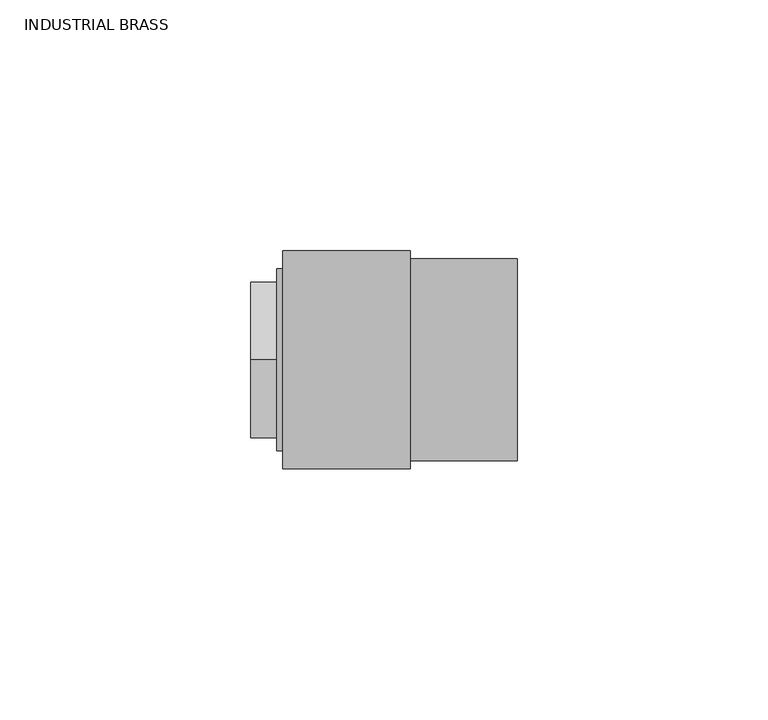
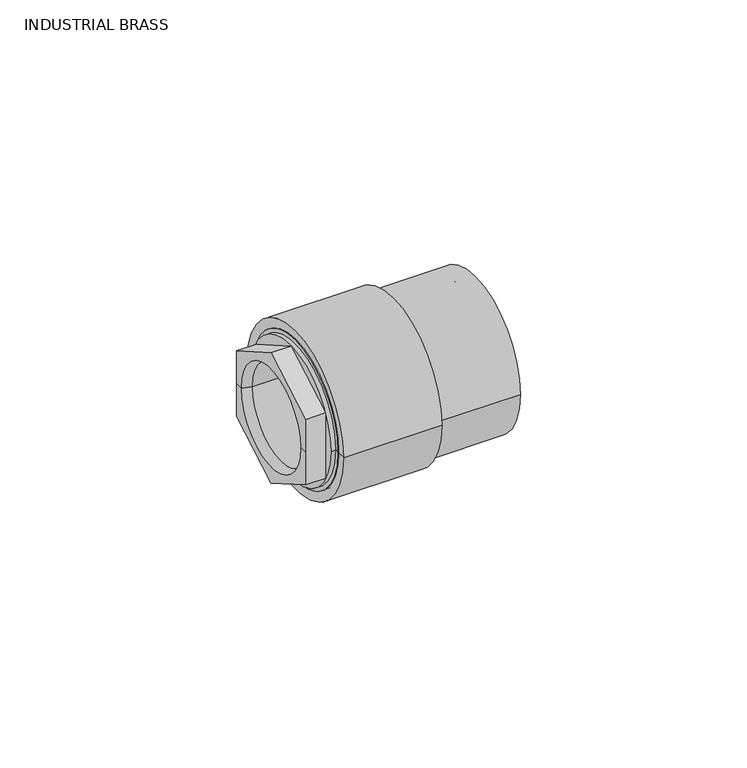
"""IFC4 building model written with IfcOpenShell, lengths in millimetres: valve geometry, Aquatherm - Transition Piece - F HEX : INDUSTRIAL BRASS."""

from ifc_helpers import new_model, si_unit, frame, origin, place, context, project, spatial, polyline, circle_curve, source, transform, mapped, element, save
from ifc_brep_helpers import plane_surface, cylinder_surface, revolved_surface, advanced_brep


def industrial_brass_bef8cd2b(model_context):
    return source(origin(), model_context, "Body", "AdvancedBrep", [
        advanced_brep(
        [(7.14375, -12.7, 0.0), (7.14375, 12.7, 0.0), (-3.7703125, 12.7, 0.0), (-3.7703125, -12.7, 0.0), (7.14375, -13.49375, 0.0), (7.14375, 13.49375, 0.0), (10.31875, -13.49375, 0.0), (10.31875, 13.49375, 0.0), (10.31875, -9.525, 0.0), (10.31875, 9.525, 0.0), (13.49375, -9.525, 0.0), (13.49375, 9.525, 0.0), (13.49375, -19.177, 0.0), (13.49375, 19.177, 0.0), (0.0, -19.177, 0.0), (0.0, 19.177, 0.0), (-6.35, -13.49375, 0.0), (-6.35, 13.49375, 0.0), (-6.35, 15.494, 0.0), (-6.35, 15.494, -8.9454651), (-6.35, 0.0, -17.8909301), (-6.35, -15.494, -8.9454651), (-6.35, -15.494, 0.0), (-6.35, -15.494, 8.9454651), (-6.35, 0.0, 17.8909301), (-6.35, 15.494, 8.9454651), (0.0, -18.161, 0.0), (0.0, 18.161, 0.0), (-1.190625, -18.161, 0.0), (-1.190625, 18.161, 0.0), (-1.190625, 0.0, -17.8909301), (-1.190625, 15.494, -8.9454651), (-1.190625, 15.494, 8.9454651), (-1.190625, 0.0, 17.8909301), (-1.190625, -15.494, 8.9454651), (-1.190625, -15.494, -8.9454651)],
        [
            (0, 1, circle_curve(frame((7.14375, 0.0, 0.0), z_axis=(1.0, 0.0, 0.0), x_axis=(0.0, 1.0, 0.0)), 12.7)),
            (1, 2),
            (2, 3, circle_curve(frame((-3.7703125, 0.0, 0.0), z_axis=(-1.0, 0.0, 0.0), x_axis=(0.0, 1.0, 0.0)), 12.7)),
            (3, 0),
            (1, 0, circle_curve(frame((7.14375, 0.0, 0.0), z_axis=(1.0, 0.0, 0.0), x_axis=(0.0, 1.0, 0.0)), 12.7)),
            (3, 2, circle_curve(frame((-3.7703125, 0.0, 0.0), z_axis=(-1.0, 0.0, 0.0), x_axis=(0.0, 1.0, 0.0)), 12.7)),
            (0, 4),
            (4, 5, circle_curve(frame((7.14375, 0.0, 0.0), z_axis=(1.0, 0.0, 0.0), x_axis=(0.0, 1.0, 0.0)), 13.49375)),
            (5, 1),
            (5, 4, circle_curve(frame((7.14375, 0.0, 0.0), z_axis=(1.0, 0.0, 0.0), x_axis=(0.0, 1.0, 0.0)), 13.49375)),
            (4, 6),
            (6, 7, circle_curve(frame((10.31875, 0.0, 0.0), z_axis=(1.0, 0.0, 0.0), x_axis=(0.0, 1.0, 0.0)), 13.49375)),
            (7, 5),
            (7, 6, circle_curve(frame((10.31875, 0.0, 0.0), z_axis=(1.0, 0.0, 0.0), x_axis=(0.0, 1.0, 0.0)), 13.49375)),
            (6, 8),
            (8, 9, circle_curve(frame((10.31875, 0.0, 0.0), z_axis=(1.0, 0.0, 0.0), x_axis=(0.0, 1.0, 0.0)), 9.525)),
            (9, 7),
            (9, 8, circle_curve(frame((10.31875, 0.0, 0.0), z_axis=(1.0, 0.0, 0.0), x_axis=(0.0, 1.0, 0.0)), 9.525)),
            (8, 10),
            (10, 11, circle_curve(frame((13.49375, 0.0, 0.0), z_axis=(1.0, 0.0, 0.0), x_axis=(0.0, 1.0, 0.0)), 9.525)),
            (11, 9),
            (11, 10, circle_curve(frame((13.49375, 0.0, 0.0), z_axis=(1.0, 0.0, 0.0), x_axis=(0.0, 1.0, 0.0)), 9.525)),
            (10, 12),
            (12, 13, circle_curve(frame((13.49375, 0.0, 0.0), z_axis=(1.0, 0.0, 0.0), x_axis=(0.0, 1.0, 0.0)), 19.177)),
            (13, 11),
            (13, 12, circle_curve(frame((13.49375, 0.0, 0.0), z_axis=(1.0, 0.0, 0.0), x_axis=(0.0, 1.0, 0.0)), 19.177)),
            (12, 14),
            (14, 15, circle_curve(frame((0.0, 0.0, 0.0), z_axis=(1.0, 0.0, 0.0), x_axis=(0.0, 1.0, 0.0)), 19.177)),
            (15, 13),
            (15, 14, circle_curve(frame((0.0, 0.0, 0.0), z_axis=(1.0, 0.0, 0.0), x_axis=(0.0, 1.0, 0.0)), 19.177)),
            (16, 17, circle_curve(frame((-6.35, 0.0, 0.0), z_axis=(1.0, 0.0, 0.0), x_axis=(0.0, 1.0, 0.0)), 13.49375)),
            (17, 18),
            (18, 19),
            (19, 20),
            (20, 21),
            (21, 22),
            (22, 16),
            (17, 16, circle_curve(frame((-6.35, 0.0, 0.0), z_axis=(1.0, 0.0, 0.0), x_axis=(0.0, 1.0, 0.0)), 13.49375)),
            (22, 23),
            (23, 24),
            (24, 25),
            (25, 18),
            (2, 17),
            (16, 3),
            (14, 26),
            (26, 27, circle_curve(frame((0.0, 0.0, 0.0), z_axis=(1.0, 0.0, 0.0), x_axis=(0.0, 1.0, 0.0)), 18.161)),
            (27, 15),
            (27, 26, circle_curve(frame((0.0, 0.0, 0.0), z_axis=(1.0, 0.0, 0.0), x_axis=(0.0, 1.0, 0.0)), 18.161)),
            (26, 28),
            (28, 29, circle_curve(frame((-1.190625, 0.0, 0.0), z_axis=(1.0, 0.0, 0.0), x_axis=(0.0, 1.0, 0.0)), 18.161)),
            (29, 27),
            (29, 28, circle_curve(frame((-1.190625, 0.0, 0.0), z_axis=(1.0, 0.0, 0.0), x_axis=(0.0, 1.0, 0.0)), 18.161)),
            (30, 31),
            (31, 32),
            (32, 33),
            (33, 34),
            (34, 35),
            (35, 30),
            (35, 21),
            (20, 30),
            (34, 23),
            (33, 24),
            (32, 25),
            (31, 19),
        ],
        [
            revolved_surface(polyline([(-3.7703125, 12.7, 0.0), (7.143749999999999, 12.7, 0.0)]), (-8.1832251, 0.0, 0.0), (-1.0, 0.0, 0.0)),
            plane_surface(frame((7.14375, 0.0, 0.0), z_axis=(1.0, 0.0, 0.0), x_axis=(0.0, 1.0, 0.0))),
            revolved_surface(polyline([(7.143749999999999, 13.49375, 0.0), (10.31875, 13.49375, 0.0)]), (-8.1832251, 0.0, 0.0), (-1.0, 0.0, 0.0)),
            plane_surface(frame((10.31875, 0.0, 0.0), z_axis=(-1.0, 0.0, 0.0), x_axis=(0.0, 1.0, 0.0))),
            revolved_surface(polyline([(10.31875, 9.525, 0.0), (13.49375, 9.525, 0.0)]), (-8.1832251, 0.0, 0.0), (-1.0, 0.0, 0.0)),
            plane_surface(frame((13.49375, 0.0, 0.0), z_axis=(1.0, 0.0, 0.0), x_axis=(0.0, 1.0, 0.0))),
            cylinder_surface(frame((-8.1832251, 0.0, 0.0), z_axis=(-1.0, 0.0, 0.0), x_axis=(0.0, 1.0, 0.0)), 19.177),
            plane_surface(frame((-6.35, 0.0, 0.0), z_axis=(-1.0, 0.0, 0.0), x_axis=(0.0, 1.0, 0.0))),
            revolved_surface(polyline([(-6.35, 13.49375, 0.0), (-3.7703125, 12.7, 0.0)]), (-8.1832251, 0.0, 0.0), (-1.0, 0.0, 0.0)),
            plane_surface(frame((0.0, 0.0, 0.0), z_axis=(-1.0, 0.0, 0.0), x_axis=(0.0, 1.0, 0.0))),
            cylinder_surface(frame((-8.1832251, 0.0, 0.0), z_axis=(-1.0, 0.0, 0.0), x_axis=(0.0, 1.0, 0.0)), 18.161),
            plane_surface(frame((-1.190625, -15.494, -8.9454651), z_axis=(-1.0000000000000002, 0.0, 0.0), x_axis=(0.0, -0.8660254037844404, 0.49999999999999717))),
            plane_surface(frame((-1.190625, 0.0, -17.8909301), z_axis=(0.0, -0.49999999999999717, -0.8660254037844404), x_axis=(-1.0, 0.0, 0.0))),
            plane_surface(frame((-1.190625, -15.494, -8.9454651), z_axis=(0.0, -1.0, 0.0), x_axis=(-1.0, 0.0, 0.0))),
            plane_surface(frame((-1.190625, -15.494, 8.9454651), z_axis=(0.0, -0.5000000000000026, 0.8660254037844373), x_axis=(-1.0, 0.0, 0.0))),
            plane_surface(frame((-1.190625, 0.0, 17.8909301), z_axis=(0.0, 0.4999999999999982, 0.8660254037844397), x_axis=(-1.0, 0.0, 0.0))),
            plane_surface(frame((-1.190625, 15.494, 8.9454651), z_axis=(0.0, 1.0, 0.0), x_axis=(-1.0, 0.0, 0.0))),
            plane_surface(frame((-1.190625, 15.494, -8.9454651), z_axis=(0.0, 0.5000000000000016, -0.8660254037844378), x_axis=(-1.0, 0.0, 0.0))),
        ],
        [
            (0, [[1, 2, 3, 4]]),
            (0, [[-2, 5, -4, 6]]),
            (1, [[-1, 7, 8, 9]]),
            (1, [[-5, -9, 10, -7]]),
            (2, [[-8, 11, 12, 13]]),
            (2, [[-10, -13, 14, -11]]),
            (3, [[-12, 15, 16, 17]]),
            (3, [[-14, -17, 18, -15]]),
            (4, [[-16, 19, 20, 21]]),
            (4, [[-18, -21, 22, -19]]),
            (5, [[-20, 23, 24, 25]]),
            (5, [[-22, -25, 26, -23]]),
            (6, [[-24, 27, 28, 29]]),
            (6, [[-26, -29, 30, -27]]),
            (7, [[31, 32, 33, 34, 35, 36, 37]]),
            (7, [[38, -37, 39, 40, 41, 42, -32]]),
            (8, [[-3, 43, -31, 44]]),
            (8, [[-6, -44, -38, -43]]),
            (9, [[-28, 45, 46, 47]]),
            (9, [[-30, -47, 48, -45]]),
            (10, [[-46, 49, 50, 51]]),
            (10, [[-48, -51, 52, -49]]),
            (11, [[-50, -52], [53, 54, 55, 56, 57, 58]]),
            (12, [[-58, 59, -35, 60]]),
            (13, [[-57, 61, -39, -36, -59]]),
            (14, [[-56, 62, -40, -61]]),
            (15, [[-55, 63, -41, -62]]),
            (16, [[-54, 64, -33, -42, -63]]),
            (17, [[-53, -60, -34, -64]]),
        ],
    ),
        advanced_brep(
        [(0.0, -21.717, 0.0), (0.0, 21.717, 0.0), (25.4, 21.717, 0.0), (25.4, -21.717, 0.0), (0.0, -19.177, 0.0), (0.0, 19.177, 0.0), (13.49375, -19.177, 0.0), (13.49375, 19.177, 0.0), (13.49375, -9.525, 0.0), (13.49375, 9.525, 0.0), (28.702, -9.525, 0.0), (28.702, 9.525, 0.0), (28.702, -16.002, 0.0), (28.702, 16.002, 0.0), (46.736, -16.002, 0.0), (46.736, 16.002, 0.0), (46.736, -20.1295, 0.0), (46.736, 20.1295, 0.0), (25.4, -20.1295, 0.0), (25.4, 20.1295, 0.0)],
        [
            (0, 1, circle_curve(frame((0.0, 0.0, 0.0), z_axis=(1.0, 0.0, 0.0), x_axis=(0.0, 1.0, 0.0)), 21.717)),
            (1, 2),
            (2, 3, circle_curve(frame((25.4, 0.0, 0.0), z_axis=(-1.0, 0.0, 0.0), x_axis=(0.0, 1.0, 0.0)), 21.717)),
            (3, 0),
            (1, 0, circle_curve(frame((0.0, 0.0, 0.0), z_axis=(1.0, 0.0, 0.0), x_axis=(0.0, 1.0, 0.0)), 21.717)),
            (3, 2, circle_curve(frame((25.4, 0.0, 0.0), z_axis=(-1.0, 0.0, 0.0), x_axis=(0.0, 1.0, 0.0)), 21.717)),
            (4, 5, circle_curve(frame((0.0, 0.0, 0.0), z_axis=(1.0, 0.0, 0.0), x_axis=(0.0, 1.0, 0.0)), 19.177)),
            (5, 1),
            (0, 4),
            (5, 4, circle_curve(frame((0.0, 0.0, 0.0), z_axis=(1.0, 0.0, 0.0), x_axis=(0.0, 1.0, 0.0)), 19.177)),
            (6, 7, circle_curve(frame((13.49375, 0.0, 0.0), z_axis=(1.0, 0.0, 0.0), x_axis=(0.0, 1.0, 0.0)), 19.177)),
            (7, 5),
            (4, 6),
            (7, 6, circle_curve(frame((13.49375, 0.0, 0.0), z_axis=(1.0, 0.0, 0.0), x_axis=(0.0, 1.0, 0.0)), 19.177)),
            (8, 9, circle_curve(frame((13.49375, 0.0, 0.0), z_axis=(1.0, 0.0, 0.0), x_axis=(0.0, 1.0, 0.0)), 9.525)),
            (9, 7),
            (6, 8),
            (9, 8, circle_curve(frame((13.49375, 0.0, 0.0), z_axis=(1.0, 0.0, 0.0), x_axis=(0.0, 1.0, 0.0)), 9.525)),
            (10, 11, circle_curve(frame((28.702, 0.0, 0.0), z_axis=(1.0, 0.0, 0.0), x_axis=(0.0, 1.0, 0.0)), 9.525)),
            (11, 9),
            (8, 10),
            (11, 10, circle_curve(frame((28.702, 0.0, 0.0), z_axis=(1.0, 0.0, 0.0), x_axis=(0.0, 1.0, 0.0)), 9.525)),
            (12, 13, circle_curve(frame((28.702, 0.0, 0.0), z_axis=(1.0, 0.0, 0.0), x_axis=(0.0, 1.0, 0.0)), 16.002)),
            (13, 11),
            (10, 12),
            (13, 12, circle_curve(frame((28.702, 0.0, 0.0), z_axis=(1.0, 0.0, 0.0), x_axis=(0.0, 1.0, 0.0)), 16.002)),
            (14, 15, circle_curve(frame((46.736, 0.0, 0.0), z_axis=(1.0, 0.0, 0.0), x_axis=(0.0, 1.0, 0.0)), 16.002)),
            (15, 13),
            (12, 14),
            (15, 14, circle_curve(frame((46.736, 0.0, 0.0), z_axis=(1.0, 0.0, 0.0), x_axis=(0.0, 1.0, 0.0)), 16.002)),
            (16, 17, circle_curve(frame((46.736, 0.0, 0.0), z_axis=(1.0, 0.0, 0.0), x_axis=(0.0, 1.0, 0.0)), 20.1295)),
            (17, 15),
            (14, 16),
            (17, 16, circle_curve(frame((46.736, 0.0, 0.0), z_axis=(1.0, 0.0, 0.0), x_axis=(0.0, 1.0, 0.0)), 20.1295)),
            (18, 19, circle_curve(frame((25.4, 0.0, 0.0), z_axis=(1.0, 0.0, 0.0), x_axis=(0.0, 1.0, 0.0)), 20.1295)),
            (19, 17),
            (16, 18),
            (19, 18, circle_curve(frame((25.4, 0.0, 0.0), z_axis=(1.0, 0.0, 0.0), x_axis=(0.0, 1.0, 0.0)), 20.1295)),
            (2, 19),
            (18, 3),
        ],
        [
            cylinder_surface(frame((-14.4531162, 0.0, 0.0), z_axis=(-1.0, 0.0, 0.0), x_axis=(0.0, 1.0, 0.0)), 21.717),
            plane_surface(frame((0.0, 0.0, 0.0), z_axis=(-1.0, 0.0, 0.0), x_axis=(0.0, 1.0, 0.0))),
            revolved_surface(polyline([(0.0, 19.177, 0.0), (13.493750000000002, 19.177, 0.0)]), (-14.4531162, 0.0, 0.0), (-1.0, 0.0, 0.0)),
            plane_surface(frame((13.49375, 0.0, 0.0), z_axis=(-1.0, 0.0, 0.0), x_axis=(0.0, 1.0, 0.0))),
            revolved_surface(polyline([(13.493750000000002, 9.525, 0.0), (28.702, 9.525, 0.0)]), (-14.4531162, 0.0, 0.0), (-1.0, 0.0, 0.0)),
            plane_surface(frame((28.702, 0.0, 0.0), z_axis=(1.0, 0.0, 0.0), x_axis=(0.0, 1.0, 0.0))),
            revolved_surface(polyline([(28.702, 16.002, 0.0), (46.736000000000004, 16.002, 0.0)]), (-14.4531162, 0.0, 0.0), (-1.0, 0.0, 0.0)),
            plane_surface(frame((46.736, 0.0, 0.0), z_axis=(1.0, 0.0, 0.0), x_axis=(0.0, 1.0, 0.0))),
            cylinder_surface(frame((-14.4531162, 0.0, 0.0), z_axis=(-1.0, 0.0, 0.0), x_axis=(0.0, 1.0, 0.0)), 20.1295),
            plane_surface(frame((25.4, 0.0, 0.0), z_axis=(1.0, 0.0, 0.0), x_axis=(0.0, 1.0, 0.0))),
        ],
        [
            (0, [[1, 2, 3, 4]]),
            (0, [[5, -4, 6, -2]]),
            (1, [[7, 8, -1, 9]]),
            (1, [[10, -9, -5, -8]]),
            (2, [[11, 12, -7, 13]]),
            (2, [[14, -13, -10, -12]]),
            (3, [[15, 16, -11, 17]]),
            (3, [[18, -17, -14, -16]]),
            (4, [[19, 20, -15, 21]]),
            (4, [[22, -21, -18, -20]]),
            (5, [[23, 24, -19, 25]]),
            (5, [[26, -25, -22, -24]]),
            (6, [[27, 28, -23, 29]]),
            (6, [[30, -29, -26, -28]]),
            (7, [[31, 32, -27, 33]]),
            (7, [[34, -33, -30, -32]]),
            (8, [[35, 36, -31, 37]]),
            (8, [[38, -37, -34, -36]]),
            (9, [[-3, 39, -35, 40]]),
            (9, [[-6, -40, -38, -39]]),
        ],
    ),
    ])


if __name__ == "__main__":
    model = new_model("IFC4")
    model_context = context("Model", 3, world=origin())
    ifc_project = project(units=[si_unit("LENGTHUNIT", "METRE", prefix="MILLI")], contexts=[model_context])
    site = spatial("IfcSite", under=ifc_project)
    building = spatial("IfcBuilding", under=site)
    placement = place(None, origin())
    industrial_brass_shape = industrial_brass_bef8cd2b(model_context)
    element("IfcValve", 1, ObjectType="Aquatherm - Transition Piece - F HEX : INDUSTRIAL BRASS", at=placement, inside=building, context=model_context, shape_type="MappedRepresentation", body=[
        mapped(industrial_brass_shape, transform((0.0, 0.0, 0.0), x_axis=(1.0, 0.0, 0.0), y_axis=(0.0, 1.0, 0.0), z_axis=(0.0, 0.0, 1.0))),
    ])
    save(model, "model.ifc")
